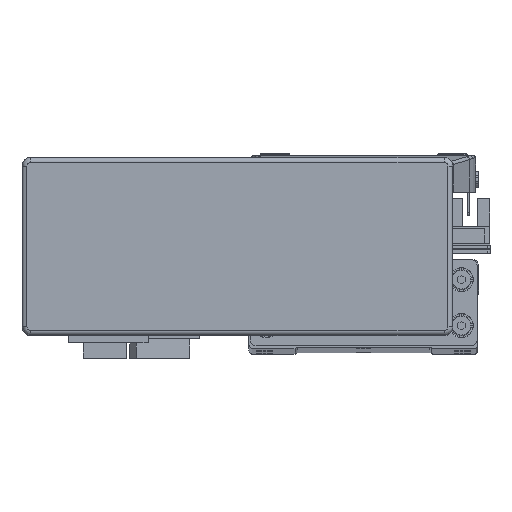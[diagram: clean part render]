
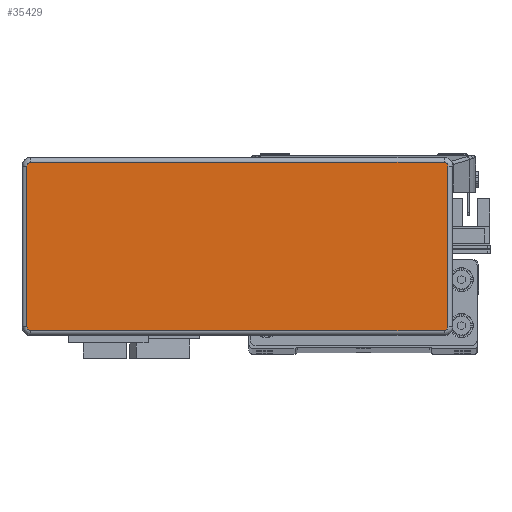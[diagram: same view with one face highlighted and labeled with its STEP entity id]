
A CAD part, top view. The second image highlights one B-rep face of the part: STEP entity #35429.
In plain terms, the highlighted planar face has unit normal (0, 0, 1) as drawn and (0, 0, -1) by its records, which use the part's own axes.
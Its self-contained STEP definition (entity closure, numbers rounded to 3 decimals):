
#4537 = VERTEX_POINT ( 'NONE', #43135 ) ;
#4559 = VERTEX_POINT ( 'NONE', #43170 ) ;
#4563 = VERTEX_POINT ( 'NONE', #43153 ) ;
#4593 = VERTEX_POINT ( 'NONE', #43200 ) ;
#4595 = VERTEX_POINT ( 'NONE', #43205 ) ;
#4606 = VERTEX_POINT ( 'NONE', #43258 ) ;
#6213 = EDGE_LOOP ( 'NONE', ( #13845, #13891, #13847, #13885, #13895, #13923, #13905, #13863 ) ) ;
#6751 = VERTEX_POINT ( 'NONE', #19221 ) ;
#6756 = VERTEX_POINT ( 'NONE', #19223 ) ;
#12582 = AXIS2_PLACEMENT_3D ( 'NONE', #47006, #46980, #47023 ) ;
#13845 = ORIENTED_EDGE ( 'NONE', *, *, #44900, .T. ) ;
#13847 = ORIENTED_EDGE ( 'NONE', *, *, #44896, .T. ) ;
#13863 = ORIENTED_EDGE ( 'NONE', *, *, #44946, .T. ) ;
#13885 = ORIENTED_EDGE ( 'NONE', *, *, #44878, .T. ) ;
#13891 = ORIENTED_EDGE ( 'NONE', *, *, #44904, .T. ) ;
#13895 = ORIENTED_EDGE ( 'NONE', *, *, #44867, .T. ) ;
#13905 = ORIENTED_EDGE ( 'NONE', *, *, #44964, .T. ) ;
#13923 = ORIENTED_EDGE ( 'NONE', *, *, #44936, .T. ) ;
#19221 = CARTESIAN_POINT ( 'NONE',  ( 73.295, 27.995, -32.2 ) ) ;
#19223 = CARTESIAN_POINT ( 'NONE',  ( -71.995, -29.295, -32.2 ) ) ;
#24902 = DIRECTION ( 'NONE',  ( 0., 1., 0. ) ) ;
#24929 = CARTESIAN_POINT ( 'NONE',  ( -73.295, -27.995, -32.2 ) ) ;
#24941 = DIRECTION ( 'NONE',  ( 0., 0., -1. ) ) ;
#24942 = DIRECTION ( 'NONE',  ( 1., 0., 0. ) ) ;
#24952 = CARTESIAN_POINT ( 'NONE',  ( -71.995, -27.995, -32.2 ) ) ;
#24978 = CARTESIAN_POINT ( 'NONE',  ( 71.995, -29.295, -32.2 ) ) ;
#24979 = CARTESIAN_POINT ( 'NONE',  ( 71.995, -27.995, -32.2 ) ) ;
#24982 = DIRECTION ( 'NONE',  ( 0., 0., -1. ) ) ;
#24983 = DIRECTION ( 'NONE',  ( 1., 0., 0. ) ) ;
#25008 = DIRECTION ( 'NONE',  ( 0., -1., 0. ) ) ;
#25011 = DIRECTION ( 'NONE',  ( -1., 0., 0. ) ) ;
#25013 = CARTESIAN_POINT ( 'NONE',  ( 73.295, -27.995, -32.2 ) ) ;
#25188 = DIRECTION ( 'NONE',  ( 1., 0., 0. ) ) ;
#25198 = DIRECTION ( 'NONE',  ( 0., 0., -1. ) ) ;
#25219 = CARTESIAN_POINT ( 'NONE',  ( -71.995, 27.995, -32.2 ) ) ;
#25297 = CARTESIAN_POINT ( 'NONE',  ( 71.995, 27.995, -32.2 ) ) ;
#25307 = DIRECTION ( 'NONE',  ( 0., 0., -1. ) ) ;
#25321 = DIRECTION ( 'NONE',  ( 1., 0., 0. ) ) ;
#25407 = CARTESIAN_POINT ( 'NONE',  ( 71.995, 29.295, -32.2 ) ) ;
#25437 = DIRECTION ( 'NONE',  ( 1., 0., 0. ) ) ;
#25651 = VECTOR ( 'NONE', #24902, 1000. ) ;
#25700 = CIRCLE ( 'NONE', #40312, 1.3 ) ;
#25707 = LINE ( 'NONE', #24929, #25651 ) ;
#25719 = VECTOR ( 'NONE', #25008, 1000. ) ;
#25739 = CIRCLE ( 'NONE', #40383, 1.3 ) ;
#25743 = VECTOR ( 'NONE', #25011, 1000. ) ;
#25751 = LINE ( 'NONE', #25013, #25719 ) ;
#25754 = LINE ( 'NONE', #24978, #25743 ) ;
#25756 = CIRCLE ( 'NONE', #40314, 1.3 ) ;
#25792 = CIRCLE ( 'NONE', #40387, 1.3 ) ;
#25803 = VECTOR ( 'NONE', #25437, 1000. ) ;
#25823 = LINE ( 'NONE', #25407, #25803 ) ;
#33512 = FACE_OUTER_BOUND ( 'NONE', #6213, .T. ) ;
#35429 = ADVANCED_FACE ( 'NONE', ( #33512 ), #46994, .F. ) ;
#40312 = AXIS2_PLACEMENT_3D ( 'NONE', #24952, #24941, #24942 ) ;
#40314 = AXIS2_PLACEMENT_3D ( 'NONE', #24979, #24982, #24983 ) ;
#40383 = AXIS2_PLACEMENT_3D ( 'NONE', #25219, #25198, #25188 ) ;
#40387 = AXIS2_PLACEMENT_3D ( 'NONE', #25297, #25307, #25321 ) ;
#43135 = CARTESIAN_POINT ( 'NONE',  ( 73.295, -27.995, -32.2 ) ) ;
#43153 = CARTESIAN_POINT ( 'NONE',  ( -73.295, -27.995, -32.2 ) ) ;
#43170 = CARTESIAN_POINT ( 'NONE',  ( 71.995, 29.295, -32.2 ) ) ;
#43200 = CARTESIAN_POINT ( 'NONE',  ( 71.995, -29.295, -32.2 ) ) ;
#43205 = CARTESIAN_POINT ( 'NONE',  ( -71.995, 29.295, -32.2 ) ) ;
#43258 = CARTESIAN_POINT ( 'NONE',  ( -73.295, 27.995, -32.2 ) ) ;
#44867 = EDGE_CURVE ( 'NONE', #4563, #4606, #25707, .T. ) ;
#44878 = EDGE_CURVE ( 'NONE', #6756, #4563, #25700, .T. ) ;
#44896 = EDGE_CURVE ( 'NONE', #4593, #6756, #25754, .T. ) ;
#44900 = EDGE_CURVE ( 'NONE', #6751, #4537, #25751, .T. ) ;
#44904 = EDGE_CURVE ( 'NONE', #4537, #4593, #25756, .T. ) ;
#44936 = EDGE_CURVE ( 'NONE', #4606, #4595, #25739, .T. ) ;
#44946 = EDGE_CURVE ( 'NONE', #4559, #6751, #25792, .T. ) ;
#44964 = EDGE_CURVE ( 'NONE', #4595, #4559, #25823, .T. ) ;
#46980 = DIRECTION ( 'NONE',  ( 0., 0., 1. ) ) ;
#46994 = PLANE ( 'NONE',  #12582 ) ;
#47006 = CARTESIAN_POINT ( 'NONE',  ( 71.995, -27.995, -32.2 ) ) ;
#47023 = DIRECTION ( 'NONE',  ( 1., 0., 0. ) ) ;
